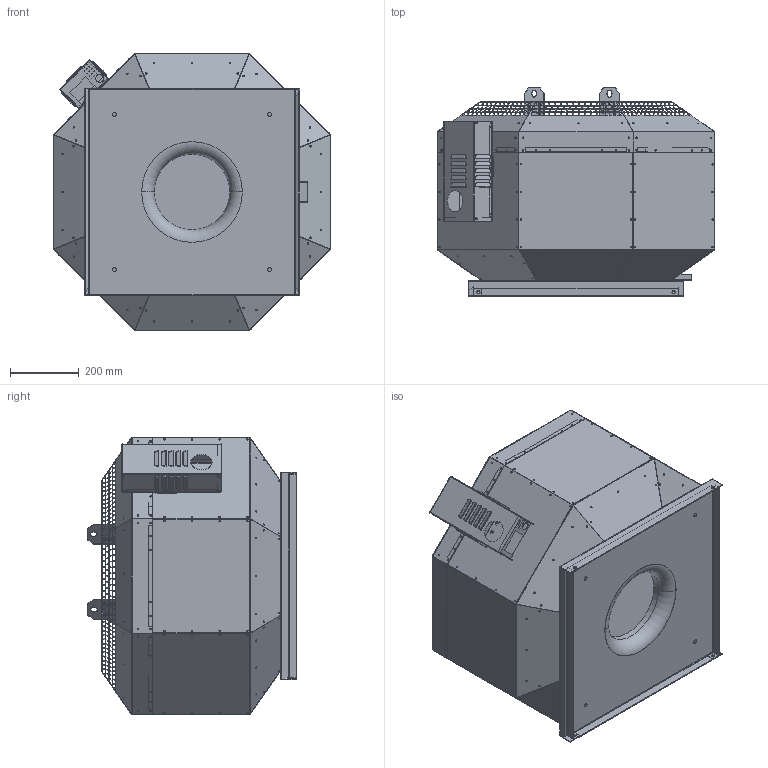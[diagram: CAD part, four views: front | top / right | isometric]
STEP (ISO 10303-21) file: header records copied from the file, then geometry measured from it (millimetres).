
FILE_DESCRIPTION (( 'STEP AP203' ), '1' );
FILE_NAME ('145039-01_DVNI355D430_step.step', '2018-08-08T08:08:31', ( '' ), ( '' ), 'SwSTEP 2.0', 'SolidWorks 2017', '' );
FILE_SCHEMA (( 'CONFIG_CONTROL_DESIGN' ));
Products named in the file (1): 145039-01_DVNI355D430_step
Bounding box: 804 x 604.01 x 804 mm (x, y, z)
Surface area: 4830020.1 mm2 (no closed solid volume)
Topology: 0 solids, 47 shells, 1862 faces, 12694 edges, 10080 vertices
Faces by surface type: plane 1441, cylinder 344, bspline 73, torus 4
Entity records: 141652 total; most frequent: CARTESIAN_POINT 45691, DIRECTION 17300, ORIENTED_EDGE 16620, EDGE_CURVE 12694, VECTOR 10760, LINE 10760, VERTEX_POINT 10080, EDGE_LOOP 4355
